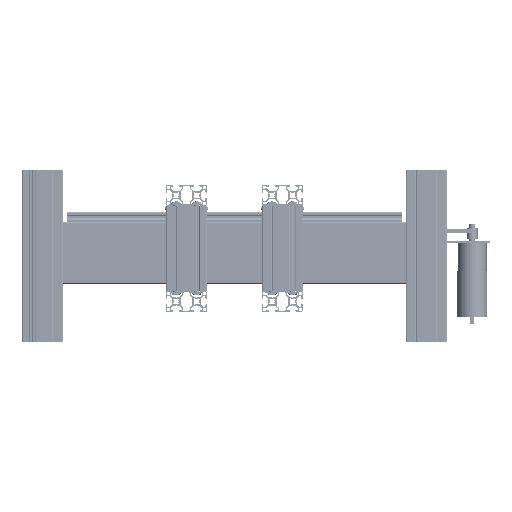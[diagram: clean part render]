
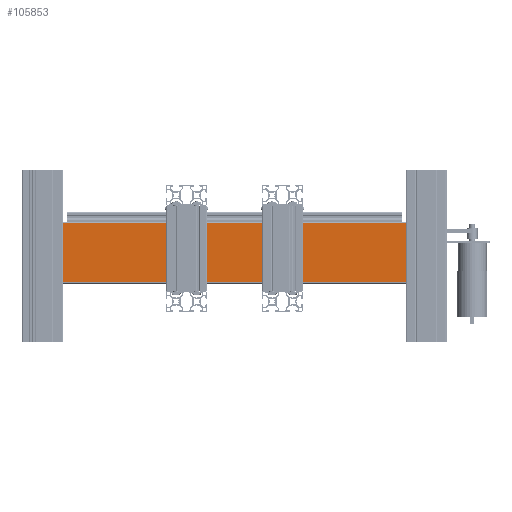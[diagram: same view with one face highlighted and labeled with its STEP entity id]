
A CAD part, front view. The second image highlights one B-rep face of the part: STEP entity #105853.
In plain terms, the highlighted planar face has unit normal (0, -1, 0).
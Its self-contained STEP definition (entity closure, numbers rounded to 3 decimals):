
#4202=PLANE('',#113750);
#7805=FACE_OUTER_BOUND('',#13538,.T.);
#13538=EDGE_LOOP('',(#78662,#78663,#78664,#78665));
#21087=LINE('',#164852,#31221);
#21088=LINE('',#164855,#31222);
#21089=LINE('',#164857,#31223);
#21090=LINE('',#164858,#31224);
#31221=VECTOR('',#131689,10.);
#31222=VECTOR('',#131692,10.);
#31223=VECTOR('',#131693,10.);
#31224=VECTOR('',#131694,10.);
#46395=VERTEX_POINT('',#164848);
#46396=VERTEX_POINT('',#164850);
#46397=VERTEX_POINT('',#164854);
#46398=VERTEX_POINT('',#164856);
#58509=EDGE_CURVE('',#46395,#46396,#21087,.T.);
#58510=EDGE_CURVE('',#46397,#46395,#21088,.T.);
#58511=EDGE_CURVE('',#46398,#46396,#21089,.T.);
#58512=EDGE_CURVE('',#46397,#46398,#21090,.T.);
#78662=ORIENTED_EDGE('',*,*,#58510,.T.);
#78663=ORIENTED_EDGE('',*,*,#58509,.T.);
#78664=ORIENTED_EDGE('',*,*,#58511,.F.);
#78665=ORIENTED_EDGE('',*,*,#58512,.F.);
#105853=ADVANCED_FACE('',(#7805),#4202,.T.);
#113750=AXIS2_PLACEMENT_3D('',#164853,#131690,#131691);
#131689=DIRECTION('',(0.,0.,1.));
#131690=DIRECTION('center_axis',(0.,-1.,0.));
#131691=DIRECTION('ref_axis',(1.,0.,0.));
#131692=DIRECTION('',(1.,0.,0.));
#131693=DIRECTION('',(1.,0.,0.));
#131694=DIRECTION('',(0.,0.,1.));
#164848=CARTESIAN_POINT('',(68.3,-30.,0.));
#164850=CARTESIAN_POINT('',(68.3,-30.,500.));
#164852=CARTESIAN_POINT('',(68.3,-30.,0.));
#164853=CARTESIAN_POINT('Origin',(-17.7,-30.,0.));
#164854=CARTESIAN_POINT('',(-17.7,-30.,0.));
#164855=CARTESIAN_POINT('',(-17.7,-30.,0.));
#164856=CARTESIAN_POINT('',(-17.7,-30.,500.));
#164857=CARTESIAN_POINT('',(-17.7,-30.,500.));
#164858=CARTESIAN_POINT('',(-17.7,-30.,0.));
